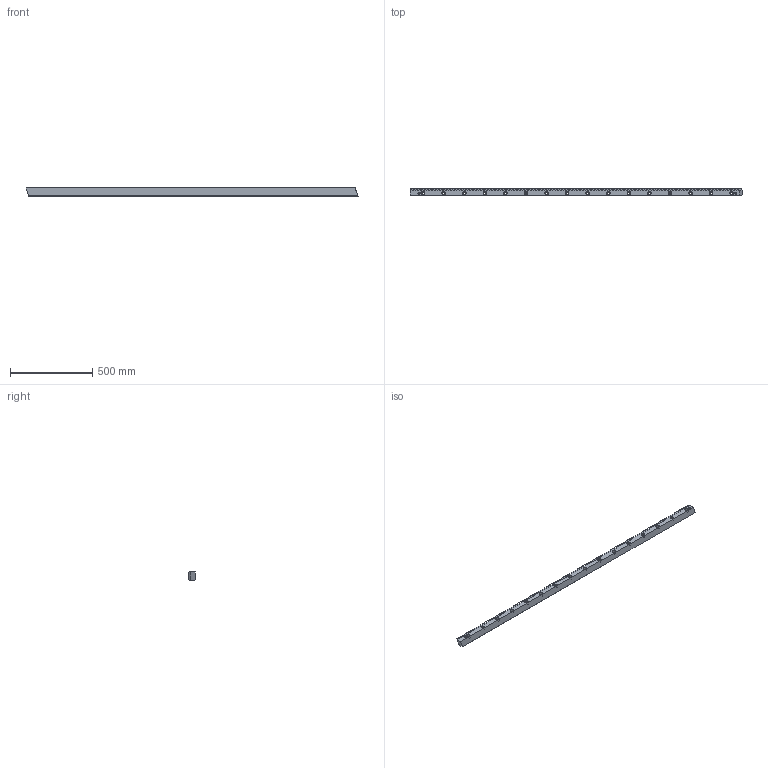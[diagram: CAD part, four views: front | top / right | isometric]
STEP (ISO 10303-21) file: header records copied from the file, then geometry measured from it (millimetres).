
FILE_DESCRIPTION (( 'STEP AP214' ), '1' );
FILE_NAME ('1HR16R050200H.STEP', '2021-12-06T11:30:37', ( '' ), ( '' ), 'SwSTEP 2.0', 'SolidWorks 2021', '' );
FILE_SCHEMA (( 'AUTOMOTIVE_DESIGN' ));
Length unit declared in the file: millimetre
Products named in the file (1): 1HR16R050200H
Bounding box: 2017.38 x 39 x 49 mm (x, y, z)
Volume: 3125098.8 mm3; surface area: 459951 mm2
Topology: 1 solids, 1 shells, 1359 faces, 3955 edges, 2614 vertices
Faces by surface type: plane 743, cylinder 548, cone 68
Entity records: 44135 total; most frequent: CARTESIAN_POINT 10809, ORIENTED_EDGE 7910, DIRECTION 5919, EDGE_CURVE 3955, LINE 2791, VECTOR 2791, VERTEX_POINT 2614, AXIS2_PLACEMENT_3D 1564
